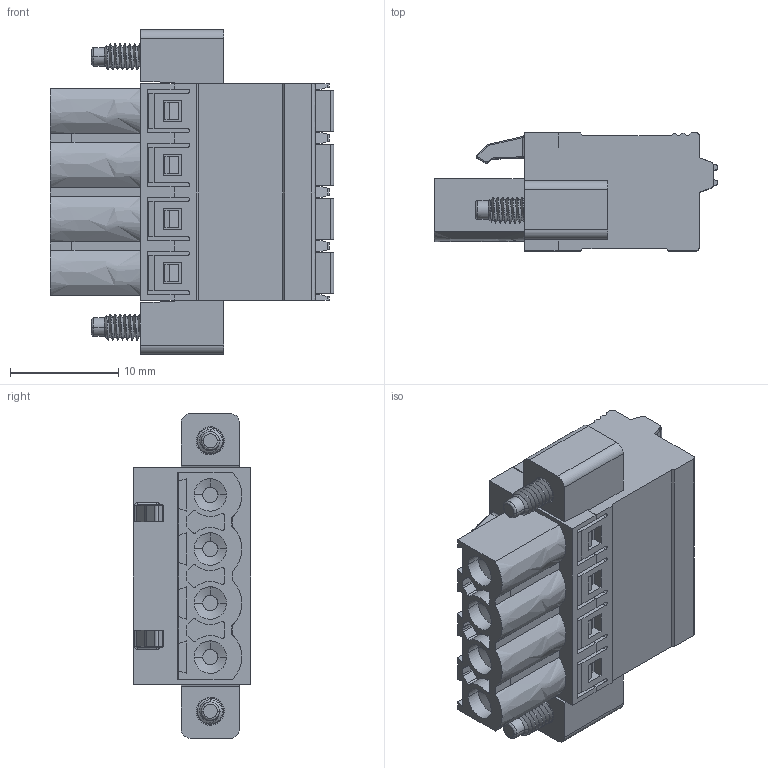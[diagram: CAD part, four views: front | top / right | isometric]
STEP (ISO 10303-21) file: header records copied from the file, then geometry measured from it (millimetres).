
FILE_DESCRIPTION(('Open CASCADE Model'),'2;1');
FILE_NAME('Open CASCADE Shape Model','2022-10-26T11:33:04',('Author'),( 'Open CASCADE'),'Open CASCADE STEP processor 6.5','Open CASCADE 6.5' ,'Unknown');
FILE_SCHEMA(('AUTOMOTIVE_DESIGN { 1 0 10303 214 1 1 1 1 }'));
Length unit declared in the file: millimetre
Products named in the file (920): CADSOFTTOOLS 1; CADSOFTTOOLS 1.1; CADSOFTTOOLS 1.2; CADSOFTTOOLS 1.3; CADSOFTTOOLS 1.4; CADSOFTTOOLS 1.5; CADSOFTTOOLS 1.6; CADSOFTTOOLS 1.7; CADSOFTTOOLS 1.8; CADSOFTTOOLS 1.9; CADSOFTTOOLS 1.10; CADSOFTTOOLS 1.11; CADSOFTTOOLS 1.12; CADSOFTTOOLS 1.13; CADSOFTTOOLS 1.14; CADSOFTTOOLS 1.15; CADSOFTTOOLS 1.16; CADSOFTTOOLS 1.17; CADSOFTTOOLS 1.18; CADSOFTTOOLS 1.19; CADSOFTTOOLS 1.20; CADSOFTTOOLS 1.21; CADSOFTTOOLS 1.22; CADSOFTTOOLS 1.23; CADSOFTTOOLS 1.24; CADSOFTTOOLS 1.25; CADSOFTTOOLS 1.26; CADSOFTTOOLS 1.27; CADSOFTTOOLS 1.28; CADSOFTTOOLS 1.29; CADSOFTTOOLS 1.30; CADSOFTTOOLS 1.31; CADSOFTTOOLS 1.32; CADSOFTTOOLS 1.33; CADSOFTTOOLS 1.34; CADSOFTTOOLS 1.35; CADSOFTTOOLS 1.36; CADSOFTTOOLS 1.37; CADSOFTTOOLS 1.38; CADSOFTTOOLS 1.39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
Assembly tree (919 placements, depth 2):
  CADSOFTTOOLS 1
    CADSOFTTOOLS 1.1
    CADSOFTTOOLS 1.2
    CADSOFTTOOLS 1.3
    CADSOFTTOOLS 1.4
    CADSOFTTOOLS 1.5
    CADSOFTTOOLS 1.6
    CADSOFTTOOLS 1.7
    CADSOFTTOOLS 1.8
    CADSOFTTOOLS 1.9
    CADSOFTTOOLS 1.10
    CADSOFTTOOLS 1.11
    CADSOFTTOOLS 1.12
    CADSOFTTOOLS 1.13
    CADSOFTTOOLS 1.14
    CADSOFTTOOLS 1.15
    CADSOFTTOOLS 1.16
    CADSOFTTOOLS 1.17
    CADSOFTTOOLS 1.18
    CADSOFTTOOLS 1.19
    CADSOFTTOOLS 1.20
    CADSOFTTOOLS 1.21
    CADSOFTTOOLS 1.22
    CADSOFTTOOLS 1.23
    CADSOFTTOOLS 1.24
    CADSOFTTOOLS 1.25
    CADSOFTTOOLS 1.26
    CADSOFTTOOLS 1.27
    CADSOFTTOOLS 1.28
    CADSOFTTOOLS 1.29
    CADSOFTTOOLS 1.30
    CADSOFTTOOLS 1.31
    CADSOFTTOOLS 1.32
    CADSOFTTOOLS 1.33
    CADSOFTTOOLS 1.34
    CADSOFTTOOLS 1.35
    CADSOFTTOOLS 1.36
    CADSOFTTOOLS 1.37
    CADSOFTTOOLS 1.38
    CADSOFTTOOLS 1.39
    CADSOFTTOOLS 1.40
    CADSOFTTOOLS 1.41
    CADSOFTTOOLS 1.42
    CADSOFTTOOLS 1.43
    CADSOFTTOOLS 1.44
    CADSOFTTOOLS 1.45
    CADSOFTTOOLS 1.46
    CADSOFTTOOLS 1.47
    CADSOFTTOOLS 1.48
    CADSOFTTOOLS 1.49
    CADSOFTTOOLS 1.50
    CADSOFTTOOLS 1.51
    CADSOFTTOOLS 1.52
    CADSOFTTOOLS 1.53
    CADSOFTTOOLS 1.54
    CADSOFTTOOLS 1.55
    CADSOFTTOOLS 1.56
    CADSOFTTOOLS 1.57
    CADSOFTTOOLS 1.58
    CADSOFTTOOLS 1.59
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Bounding box: 26.2 x 10.9 x 30 mm (x, y, z)
Surface area: 4164.1 mm2 (no closed solid volume)
Topology: 0 solids, 919 shells, 919 faces, 5174 edges, 5174 vertices
Faces by surface type: bspline 919
Entity records: 184709 total; most frequent: CARTESIAN_POINT 123351, B_SPLINE_CURVE_WITH_KNOTS 9354, ORIENTED_EDGE 5174, EDGE_CURVE 5174, VERTEX_POINT 5174, SURFACE_CURVE 5174, PCURVE 5174, DEFINITIONAL_REPRESENTATION 5174
